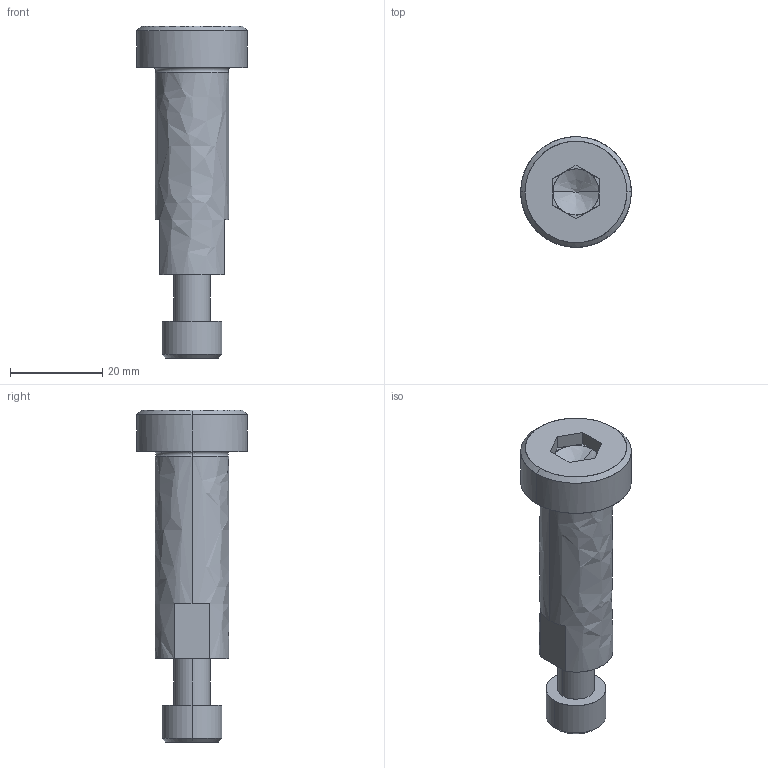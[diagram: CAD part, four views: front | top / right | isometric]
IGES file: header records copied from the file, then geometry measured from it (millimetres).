
Global section: file name: E:\UnigraphicsGraphicData\MISUMI_PRESS-PARTS\IGES\3d_sbt16-45_05070_r00.igs; native system: NX V5.0; preprocessor: UGS NX IGES V5.0; author: MISUMI; date: 20110105.162437; units: millimetre
Bounding box: 24 x 24 x 72 mm (x, y, z)
Surface area: 5858.5 mm2 (no closed solid volume)
Topology: 0 solids, 0 shells, 56 faces, 310 edges, 306 vertices
Faces by surface type: bspline 56
